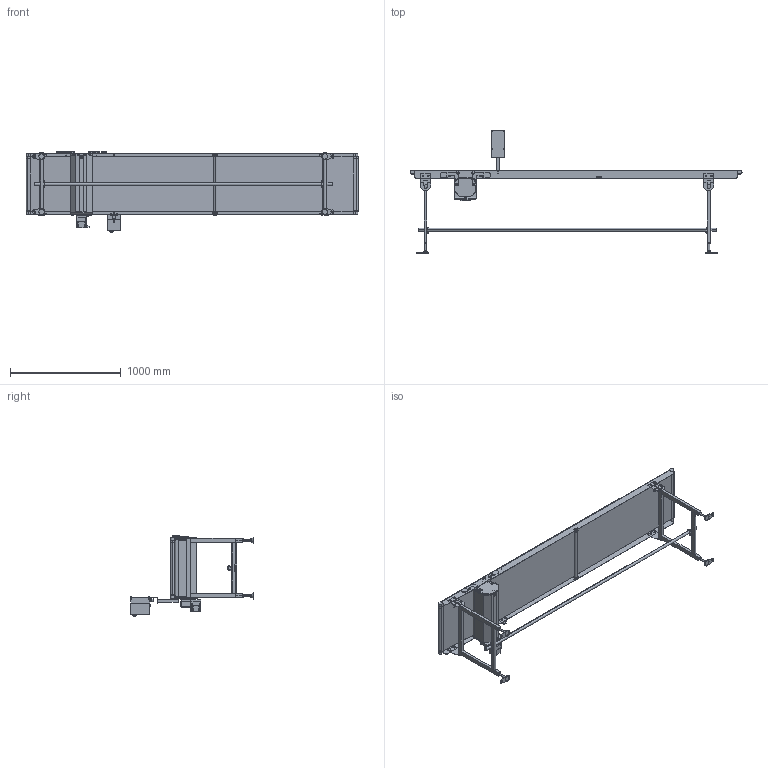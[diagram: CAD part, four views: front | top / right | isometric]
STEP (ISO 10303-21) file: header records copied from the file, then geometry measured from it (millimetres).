
FILE_DESCRIPTION (( 'STEP AP214' ), '1' );
FILE_NAME ('TBC200HH500300R.STEP', '2023-04-21T00:49:49', ( '' ), ( '' ), 'SwSTEP 2.0', 'SolidWorks 2017', '' );
FILE_SCHEMA (( 'AUTOMOTIVE_DESIGN' ));
Length unit declared in the file: millimetre
Products named in the file (1): TBC200HH500300R
Bounding box: 3002 x 1111 x 734.58 mm (x, y, z)
Volume: 41622125.2 mm3; surface area: 13441519.1 mm2
Topology: 117 solids, 117 shells, 2789 faces, 6504 edges, 4058 vertices
Faces by surface type: plane 1486, cylinder 779, cone 374, torus 128, sphere 12, bspline 10
Entity records: 113095 total; most frequent: CARTESIAN_POINT 16270, DIRECTION 14068, ORIENTED_EDGE 12960, EDGE_CURVE 6480, AXIS2_PLACEMENT_3D 5312, VERTEX_POINT 4058, VECTOR 3444, LINE 3444
